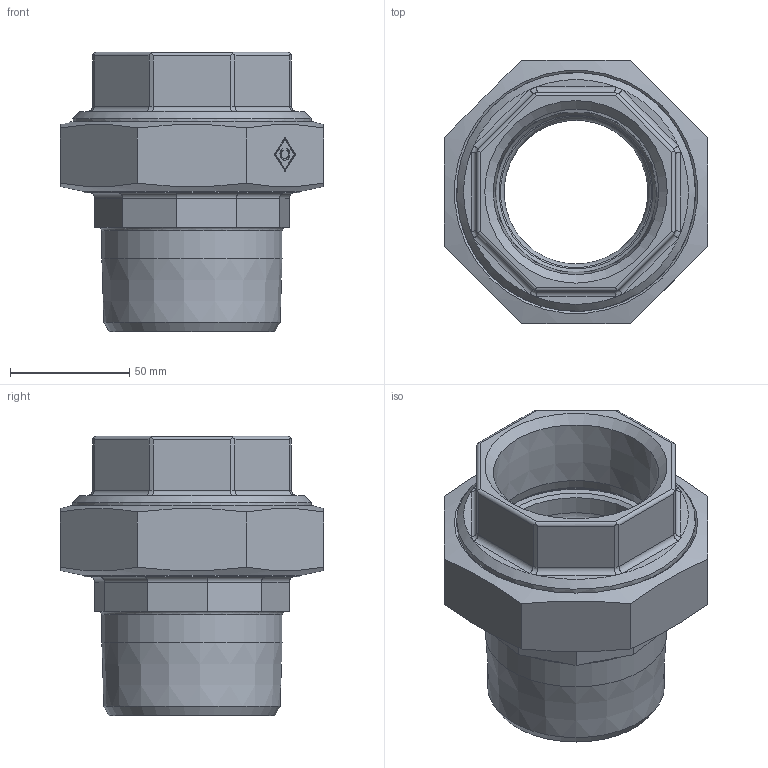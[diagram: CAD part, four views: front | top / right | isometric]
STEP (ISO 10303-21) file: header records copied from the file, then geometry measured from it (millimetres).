
FILE_DESCRIPTION((''),'2;1');
FILE_NAME('P:\Fastrack\53909_CRANE\Crane\Modified\Fig.257 M and F Union\New 2.50 inch\257-2.50.stp','2009-09-18T09:01:41',('btaylor'),(''),'Autodesk Inventor 2008','Autodesk Inventor 2008','');
FILE_SCHEMA(('AUTOMOTIVE_DESIGN { 1 0 10303 214 1 1 1 1 }'));
Length unit declared in the file: millimetre
Products named in the file (1): 257-2.50
Bounding box: 110.74 x 110.74 x 117.3 mm (x, y, z)
Volume: 343299.1 mm3; surface area: 84205.3 mm2
Topology: 1 solids, 2 shells, 135 faces, 330 edges, 207 vertices
Faces by surface type: plane 58, cylinder 43, bspline 22, cone 10, torus 2
Full cylindrical faces by diameter (mm): 60.5 x1, 67.6 x1, 76 x1, 77.5 x1, 91.06 x1, 91.44 x1, 96.77 x1, 100.33 x2
Entity records: 5110 total; most frequent: CARTESIAN_POINT 2223, ORIENTED_EDGE 590, DIRECTION 526, EDGE_CURVE 295, VERTEX_POINT 199, AXIS2_PLACEMENT_3D 191, EDGE_LOOP 174, VECTOR 144
